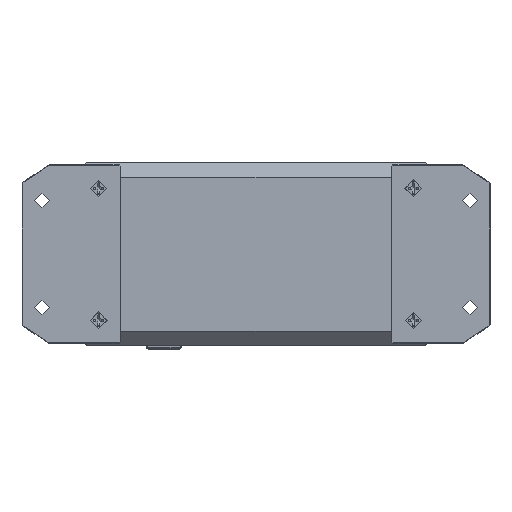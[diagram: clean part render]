
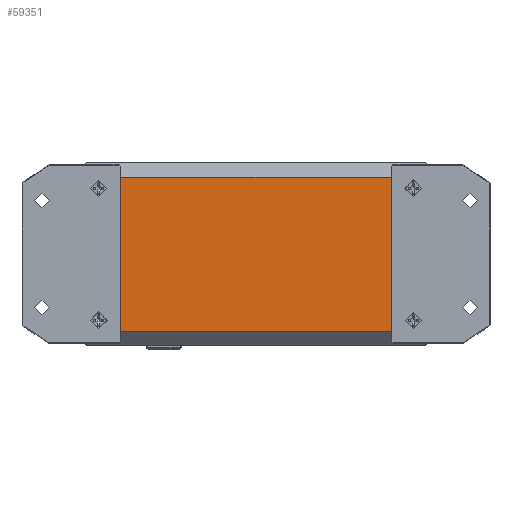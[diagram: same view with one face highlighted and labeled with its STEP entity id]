
A CAD part, top view. The second image highlights one B-rep face of the part: STEP entity #59351.
In plain terms, the highlighted planar face has unit normal (0, 0, 1).
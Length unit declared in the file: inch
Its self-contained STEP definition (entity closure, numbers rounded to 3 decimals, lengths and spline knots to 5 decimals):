
#1206 = EDGE_LOOP ( 'NONE', ( #107712 ) ) ;
#2800 = ORIENTED_EDGE ( 'NONE', *, *, #28386, .F. ) ;
#4076 = CIRCLE ( 'NONE', #89009, 0.11516 ) ;
#5797 = FACE_BOUND ( 'NONE', #1206, .T. ) ;
#8406 = FACE_BOUND ( 'NONE', #61944, .T. ) ;
#10152 = DIRECTION ( 'NONE',  ( 0., 0., 1. ) ) ;
#12362 = CARTESIAN_POINT ( 'NONE',  ( 2.08957, 0.9252, 0.31496 ) ) ;
#13142 = DIRECTION ( 'NONE',  ( 0., 0., 1. ) ) ;
#13886 = VERTEX_POINT ( 'NONE', #12362 ) ;
#17380 = EDGE_LOOP ( 'NONE', ( #99595 ) ) ;
#17427 = EDGE_LOOP ( 'NONE', ( #77492, #22040, #33174, #97739 ) ) ;
#17901 = DIRECTION ( 'NONE',  ( 1., 0., 0. ) ) ;
#21450 = DIRECTION ( 'NONE',  ( 0., 1., 0. ) ) ;
#22040 = ORIENTED_EDGE ( 'NONE', *, *, #81494, .F. ) ;
#22299 = CARTESIAN_POINT ( 'NONE',  ( -2.20472, -0.9252, 0.31496 ) ) ;
#22973 = DIRECTION ( 'NONE',  ( 0., 0., -1. ) ) ;
#23482 = DIRECTION ( 'NONE',  ( 0., 0., 1. ) ) ;
#23902 = CARTESIAN_POINT ( 'NONE',  ( 0., -1.07971, 0.31496 ) ) ;
#24407 = VECTOR ( 'NONE', #46069, 39.37008 ) ;
#24833 = LINE ( 'NONE', #97181, #44425 ) ;
#25435 = FACE_OUTER_BOUND ( 'NONE', #17427, .T. ) ;
#28386 = EDGE_CURVE ( 'NONE', #91265, #91265, #48655, .T. ) ;
#28678 = EDGE_CURVE ( 'NONE', #68938, #68938, #45865, .T. ) ;
#28876 = EDGE_CURVE ( 'NONE', #32587, #50828, #24833, .T. ) ;
#28972 = LINE ( 'NONE', #67974, #73427 ) ;
#30743 = DIRECTION ( 'NONE',  ( -1., 0., 0. ) ) ;
#32456 = VERTEX_POINT ( 'NONE', #105158 ) ;
#32587 = VERTEX_POINT ( 'NONE', #55736 ) ;
#33174 = ORIENTED_EDGE ( 'NONE', *, *, #28876, .F. ) ;
#38227 = AXIS2_PLACEMENT_3D ( 'NONE', #73067, #22973, #81500 ) ;
#41546 = VERTEX_POINT ( 'NONE', #102871 ) ;
#42529 = ORIENTED_EDGE ( 'NONE', *, *, #28678, .F. ) ;
#42823 = AXIS2_PLACEMENT_3D ( 'NONE', #22299, #80833, #30743 ) ;
#44425 = VECTOR ( 'NONE', #21450, 39.37008 ) ;
#44558 = EDGE_CURVE ( 'NONE', #41546, #32456, #46634, .T. ) ;
#45865 = CIRCLE ( 'NONE', #91289, 0.11516 ) ;
#46069 = DIRECTION ( 'NONE',  ( 0., -1., 0. ) ) ;
#46634 = LINE ( 'NONE', #87831, #24407 ) ;
#47668 = FACE_BOUND ( 'NONE', #87862, .T. ) ;
#47871 = VERTEX_POINT ( 'NONE', #88074 ) ;
#48655 = CIRCLE ( 'NONE', #42823, 0.11516 ) ;
#50828 = VERTEX_POINT ( 'NONE', #58694 ) ;
#55394 = VECTOR ( 'NONE', #107682, 39.37008 ) ;
#55541 = EDGE_CURVE ( 'NONE', #32456, #32587, #102576, .T. ) ;
#55736 = CARTESIAN_POINT ( 'NONE',  ( -2.35924, -1.07971, 0.31496 ) ) ;
#58072 = CARTESIAN_POINT ( 'NONE',  ( 2.08957, -0.9252, 0.31496 ) ) ;
#58694 = CARTESIAN_POINT ( 'NONE',  ( -2.35924, 1.07971, 0.31496 ) ) ;
#59351 = ADVANCED_FACE ( 'NONE', ( #47668, #69912, #8406, #5797, #25435 ), #80778, .F. ) ;
#60213 = CARTESIAN_POINT ( 'NONE',  ( 2.20472, -0.9252, 0.31496 ) ) ;
#61944 = EDGE_LOOP ( 'NONE', ( #42529 ) ) ;
#63179 = CARTESIAN_POINT ( 'NONE',  ( 2.20472, 0.9252, 0.31496 ) ) ;
#64915 = AXIS2_PLACEMENT_3D ( 'NONE', #73581, #23482, #81999 ) ;
#67974 = CARTESIAN_POINT ( 'NONE',  ( 0., 1.07971, 0.31496 ) ) ;
#68636 = DIRECTION ( 'NONE',  ( -1., 0., 0. ) ) ;
#68938 = VERTEX_POINT ( 'NONE', #58072 ) ;
#69912 = FACE_BOUND ( 'NONE', #17380, .T. ) ;
#71618 = DIRECTION ( 'NONE',  ( -1., 0., 0. ) ) ;
#73067 = CARTESIAN_POINT ( 'NONE',  ( 0., 0., 0.31496 ) ) ;
#73427 = VECTOR ( 'NONE', #17901, 39.37008 ) ;
#73581 = CARTESIAN_POINT ( 'NONE',  ( -2.20472, 0.9252, 0.31496 ) ) ;
#77492 = ORIENTED_EDGE ( 'NONE', *, *, #44558, .F. ) ;
#80778 = PLANE ( 'NONE',  #38227 ) ;
#80833 = DIRECTION ( 'NONE',  ( 0., 0., 1. ) ) ;
#81494 = EDGE_CURVE ( 'NONE', #50828, #41546, #28972, .T. ) ;
#81500 = DIRECTION ( 'NONE',  ( 1., 0., 0. ) ) ;
#81999 = DIRECTION ( 'NONE',  ( -1., 0., 0. ) ) ;
#85384 = CIRCLE ( 'NONE', #64915, 0.11516 ) ;
#87831 = CARTESIAN_POINT ( 'NONE',  ( 2.35924, 0., 0.31496 ) ) ;
#87862 = EDGE_LOOP ( 'NONE', ( #2800 ) ) ;
#88074 = CARTESIAN_POINT ( 'NONE',  ( -2.31988, 0.9252, 0.31496 ) ) ;
#89009 = AXIS2_PLACEMENT_3D ( 'NONE', #63179, #13142, #71618 ) ;
#91265 = VERTEX_POINT ( 'NONE', #108241 ) ;
#91289 = AXIS2_PLACEMENT_3D ( 'NONE', #60213, #10152, #68636 ) ;
#94845 = EDGE_CURVE ( 'NONE', #13886, #13886, #4076, .T. ) ;
#97181 = CARTESIAN_POINT ( 'NONE',  ( -2.35924, 0., 0.31496 ) ) ;
#97739 = ORIENTED_EDGE ( 'NONE', *, *, #55541, .F. ) ;
#99595 = ORIENTED_EDGE ( 'NONE', *, *, #94845, .F. ) ;
#102576 = LINE ( 'NONE', #23902, #55394 ) ;
#102871 = CARTESIAN_POINT ( 'NONE',  ( 2.35924, 1.07971, 0.31496 ) ) ;
#105158 = CARTESIAN_POINT ( 'NONE',  ( 2.35924, -1.07971, 0.31496 ) ) ;
#106447 = EDGE_CURVE ( 'NONE', #47871, #47871, #85384, .T. ) ;
#107682 = DIRECTION ( 'NONE',  ( -1., 0., 0. ) ) ;
#107712 = ORIENTED_EDGE ( 'NONE', *, *, #106447, .F. ) ;
#108241 = CARTESIAN_POINT ( 'NONE',  ( -2.31988, -0.9252, 0.31496 ) ) ;
